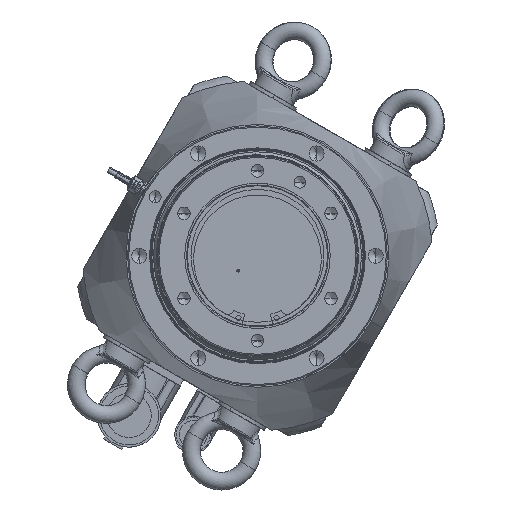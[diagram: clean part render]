
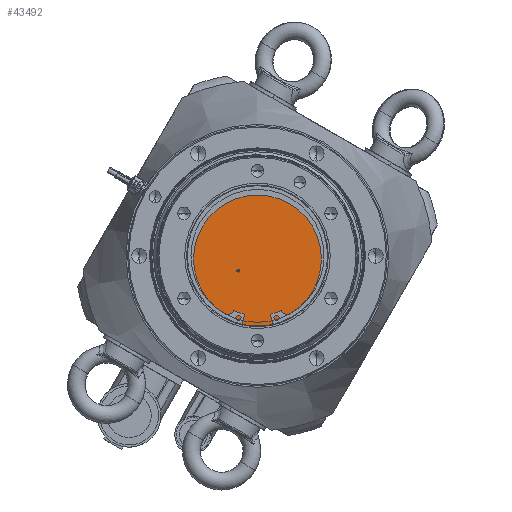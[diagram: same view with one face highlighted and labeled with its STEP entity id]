
A CAD part, front view. The second image highlights one B-rep face of the part: STEP entity #43492.
In plain terms, the highlighted planar face has unit normal (0, -1, 0).
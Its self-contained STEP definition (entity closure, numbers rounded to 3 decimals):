
#1116 = CARTESIAN_POINT ( 'NONE',  ( 0., -49.5, 47.5 ) ) ;
#4665 = DIRECTION ( 'NONE',  ( 0., 1., 0. ) ) ;
#6470 = CARTESIAN_POINT ( 'NONE',  ( -12.971, -49.5, -10.993 ) ) ;
#6898 = ORIENTED_EDGE ( 'NONE', *, *, #13622, .T. ) ;
#7930 = PLANE ( 'NONE',  #17451 ) ;
#11700 = DIRECTION ( 'NONE',  ( 0., 0., 1. ) ) ;
#11732 = CIRCLE ( 'NONE', #19017, 47.5 ) ;
#12241 = CARTESIAN_POINT ( 'NONE',  ( 0., -49.5, 0. ) ) ;
#12273 = ORIENTED_EDGE ( 'NONE', *, *, #38197, .F. ) ;
#13622 = EDGE_CURVE ( 'NONE', #42397, #32369, #27953, .T. ) ;
#13842 = AXIS2_PLACEMENT_3D ( 'NONE', #52335, #4665, #34323 ) ;
#14793 = CARTESIAN_POINT ( 'NONE',  ( 0., -49.5, -47.5 ) ) ;
#16635 = CARTESIAN_POINT ( 'NONE',  ( -12.971, -49.5, -9.993 ) ) ;
#17451 = AXIS2_PLACEMENT_3D ( 'NONE', #41874, #37316, #33320 ) ;
#19017 = AXIS2_PLACEMENT_3D ( 'NONE', #12241, #38475, #11700 ) ;
#20353 = VERTEX_POINT ( 'NONE', #14793 ) ;
#21629 = CARTESIAN_POINT ( 'NONE',  ( -12.971, -49.5, -8.993 ) ) ;
#23197 = ORIENTED_EDGE ( 'NONE', *, *, #27365, .T. ) ;
#25078 = DIRECTION ( 'NONE',  ( 0., 1., 0. ) ) ;
#27365 = EDGE_CURVE ( 'NONE', #32369, #42397, #54600, .T. ) ;
#27953 = CIRCLE ( 'NONE', #46173, 1. ) ;
#29074 = FACE_OUTER_BOUND ( 'NONE', #42550, .T. ) ;
#30054 = DIRECTION ( 'NONE',  ( 0., 1., 0. ) ) ;
#32369 = VERTEX_POINT ( 'NONE', #6470 ) ;
#32675 = AXIS2_PLACEMENT_3D ( 'NONE', #16635, #30054, #47166 ) ;
#33320 = DIRECTION ( 'NONE',  ( 0., 0., 1. ) ) ;
#34323 = DIRECTION ( 'NONE',  ( 0., 0., 1. ) ) ;
#37316 = DIRECTION ( 'NONE',  ( 0., 1., 0. ) ) ;
#38197 = EDGE_CURVE ( 'NONE', #38411, #20353, #11732, .T. ) ;
#38344 = EDGE_LOOP ( 'NONE', ( #23197, #6898 ) ) ;
#38411 = VERTEX_POINT ( 'NONE', #1116 ) ;
#38475 = DIRECTION ( 'NONE',  ( 0., 1., 0. ) ) ;
#41615 = FACE_BOUND ( 'NONE', #38344, .T. ) ;
#41874 = CARTESIAN_POINT ( 'NONE',  ( 0., -49.5, 0. ) ) ;
#42397 = VERTEX_POINT ( 'NONE', #21629 ) ;
#42550 = EDGE_LOOP ( 'NONE', ( #55671, #12273 ) ) ;
#43324 = CARTESIAN_POINT ( 'NONE',  ( -12.971, -49.5, -9.993 ) ) ;
#43492 = ADVANCED_FACE ( 'NONE', ( #29074, #41615 ), #7930, .F. ) ;
#44500 = EDGE_CURVE ( 'NONE', #20353, #38411, #48433, .T. ) ;
#46173 = AXIS2_PLACEMENT_3D ( 'NONE', #43324, #25078, #55663 ) ;
#47166 = DIRECTION ( 'NONE',  ( 0., 0., 1. ) ) ;
#48433 = CIRCLE ( 'NONE', #13842, 47.5 ) ;
#52335 = CARTESIAN_POINT ( 'NONE',  ( 0., -49.5, 0. ) ) ;
#54600 = CIRCLE ( 'NONE', #32675, 1. ) ;
#55663 = DIRECTION ( 'NONE',  ( 0., 0., 1. ) ) ;
#55671 = ORIENTED_EDGE ( 'NONE', *, *, #44500, .F. ) ;
